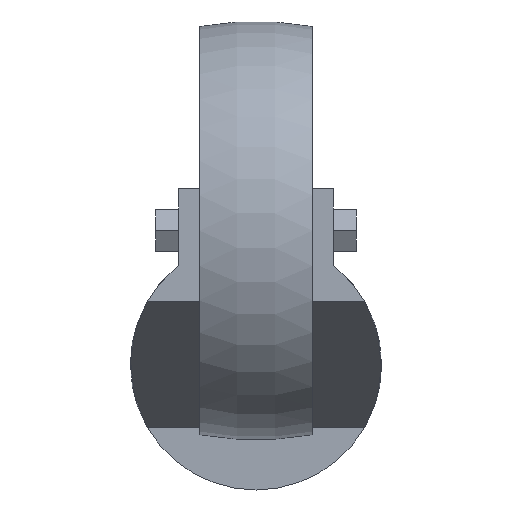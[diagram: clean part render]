
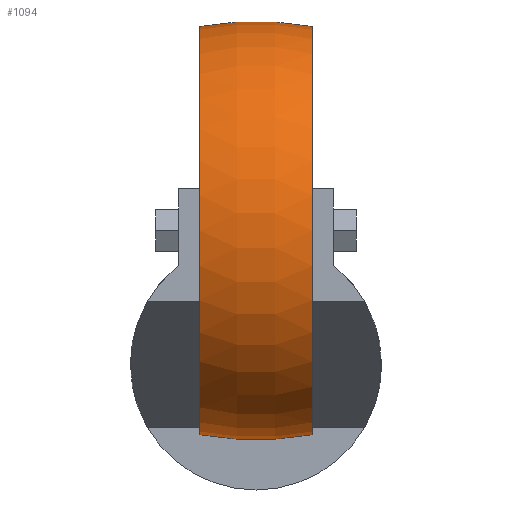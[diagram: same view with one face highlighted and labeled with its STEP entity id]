
A CAD part, front view. The second image highlights one B-rep face of the part: STEP entity #1094.
In plain terms, the highlighted toroidal (fillet/blend) face has major radius 25 mm and minor radius 75 mm.
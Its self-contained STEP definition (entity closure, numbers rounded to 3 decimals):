
#10 = CARTESIAN_POINT ( 'NONE',  ( 0., -78., 7. ) ) ;
#82 = EDGE_CURVE ( 'NONE', #103, #806, #461, .T. ) ;
#83 = ORIENTED_EDGE ( 'NONE', *, *, #1149, .T. ) ;
#91 = DIRECTION ( 'NONE',  ( -1., 0., 0. ) ) ;
#103 = VERTEX_POINT ( 'NONE', #1118 ) ;
#130 = TOROIDAL_SURFACE ( 'NONE', #1144, -25., 75. ) ;
#211 = DIRECTION ( 'NONE',  ( 0., -1., 0. ) ) ;
#229 = VERTEX_POINT ( 'NONE', #496 ) ;
#246 = AXIS2_PLACEMENT_3D ( 'NONE', #1060, #875, #1236 ) ;
#253 = CARTESIAN_POINT ( 'NONE',  ( 0., -78., 32. ) ) ;
#266 = CIRCLE ( 'NONE', #706, 48.775 ) ;
#324 = CARTESIAN_POINT ( 'NONE',  ( 13.5, -78., 80.775 ) ) ;
#344 = DIRECTION ( 'NONE',  ( 0., 0., 1. ) ) ;
#389 = ORIENTED_EDGE ( 'NONE', *, *, #1133, .T. ) ;
#437 = DIRECTION ( 'NONE',  ( -1., 0., 0. ) ) ;
#443 = AXIS2_PLACEMENT_3D ( 'NONE', #10, #211, #1046 ) ;
#461 = CIRCLE ( 'NONE', #1165, 75. ) ;
#466 = CIRCLE ( 'NONE', #246, 48.775 ) ;
#496 = CARTESIAN_POINT ( 'NONE',  ( -13.5, -78., 80.775 ) ) ;
#565 = CARTESIAN_POINT ( 'NONE',  ( 0., -78., 57. ) ) ;
#574 = CARTESIAN_POINT ( 'NONE',  ( 13.5, -78., 32. ) ) ;
#629 = FACE_OUTER_BOUND ( 'NONE', #693, .T. ) ;
#639 = ORIENTED_EDGE ( 'NONE', *, *, #82, .F. ) ;
#693 = EDGE_LOOP ( 'NONE', ( #639, #83, #389, #972 ) ) ;
#706 = AXIS2_PLACEMENT_3D ( 'NONE', #574, #91, #855 ) ;
#776 = CARTESIAN_POINT ( 'NONE',  ( -13.5, -78., -16.775 ) ) ;
#806 = VERTEX_POINT ( 'NONE', #776 ) ;
#855 = DIRECTION ( 'NONE',  ( 0., 0., 1. ) ) ;
#875 = DIRECTION ( 'NONE',  ( -1., 0., 0. ) ) ;
#920 = VERTEX_POINT ( 'NONE', #324 ) ;
#942 = DIRECTION ( 'NONE',  ( 0., 0., 1. ) ) ;
#972 = ORIENTED_EDGE ( 'NONE', *, *, #1154, .F. ) ;
#986 = CIRCLE ( 'NONE', #443, 75. ) ;
#1046 = DIRECTION ( 'NONE',  ( 0., 0., -1. ) ) ;
#1060 = CARTESIAN_POINT ( 'NONE',  ( -13.5, -78., 32. ) ) ;
#1094 = ADVANCED_FACE ( 'NONE', ( #629 ), #130, .T. ) ;
#1118 = CARTESIAN_POINT ( 'NONE',  ( 13.5, -78., -16.775 ) ) ;
#1133 = EDGE_CURVE ( 'NONE', #920, #229, #986, .T. ) ;
#1144 = AXIS2_PLACEMENT_3D ( 'NONE', #253, #437, #344 ) ;
#1149 = EDGE_CURVE ( 'NONE', #103, #920, #266, .T. ) ;
#1154 = EDGE_CURVE ( 'NONE', #806, #229, #466, .T. ) ;
#1165 = AXIS2_PLACEMENT_3D ( 'NONE', #565, #1214, #942 ) ;
#1214 = DIRECTION ( 'NONE',  ( 0., 1., 0. ) ) ;
#1236 = DIRECTION ( 'NONE',  ( 0., 0., 1. ) ) ;
